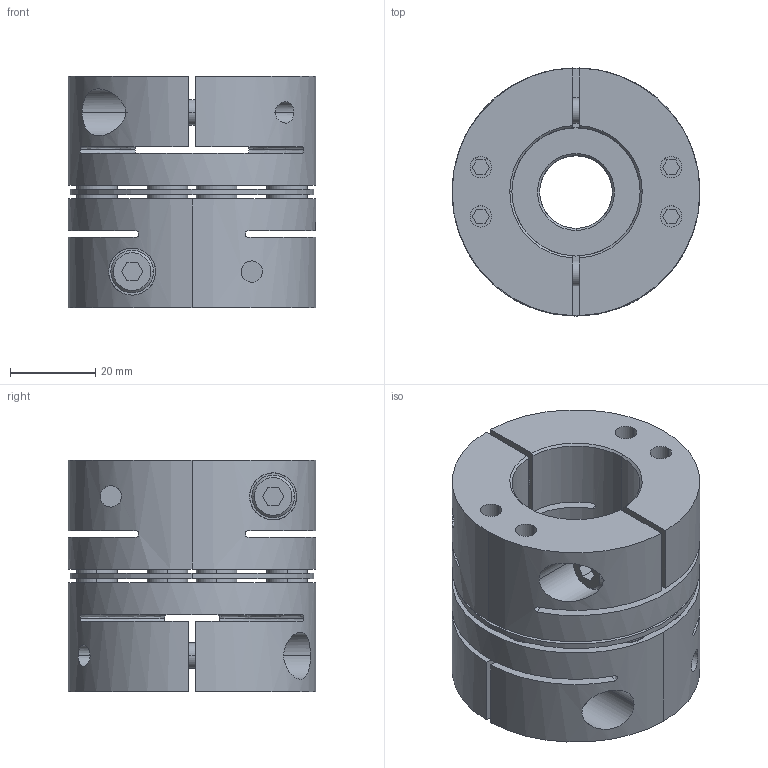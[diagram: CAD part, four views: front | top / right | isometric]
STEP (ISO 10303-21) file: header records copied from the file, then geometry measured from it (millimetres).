
FILE_DESCRIPTION((''),'2;1');
FILE_NAME('TAS-58C-17×30.stp','2022-11-14T22:17:20',(''),(''),'AutoCAD STEP 2000i','AutoCAD 2000i',', , ');
FILE_SCHEMA(('CONFIG_CONTROL_DESIGN'));
Length unit declared in the file: millimetre
Products named in the file (6): TAS-58C-12×22; 忣兜1; TA58C-22; CAP-M6×20; TA58C-12-2; TA58C-12
Assembly tree (7 placements, depth 3):
  TAS-58C-12×22
    忣兜1
    TA58C-22
      CAP-M6×20
    TA58C-12-2
      CAP-M6×20
    TA58C-12
      CAP-M6×20
Bounding box: 58 x 58 x 54.25 mm (x, y, z)
Volume: 98597.5 mm3; surface area: 41038.5 mm2
Topology: 1 solids, 1 shells, 360 faces, 898 edges, 628 vertices
Faces by surface type: plane 160, cylinder 148, cone 36, bspline 16
Entity records: 12805 total; most frequent: CARTESIAN_POINT 3832, DIRECTION 1922, ORIENTED_EDGE 1720, EDGE_CURVE 860, AXIS2_PLACEMENT_3D 732, VERTEX_POINT 564, EDGE_LOOP 464, VECTOR 458
